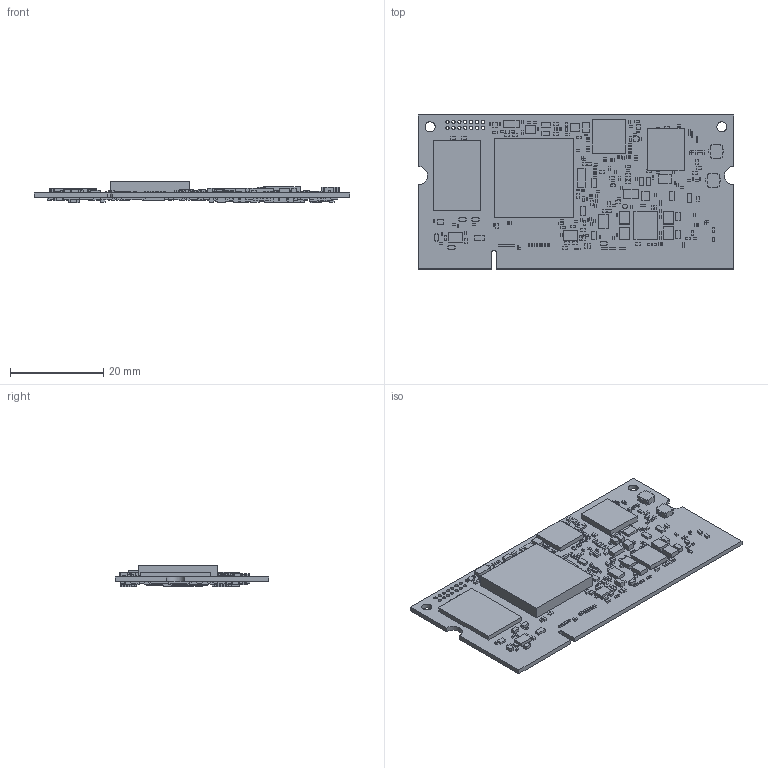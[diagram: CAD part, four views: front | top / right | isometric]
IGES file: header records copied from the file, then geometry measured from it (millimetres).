
Global section: file name: VAR-SOM-AM62P_Rev1.1; native system: unknown; preprocessor: unknown; author: unknown; organization: unknown; date: 20250915.121653; units: millimetre
Bounding box: 67.6 x 32.99 x 4.62 mm (x, y, z)
Volume: 3698.9 mm3; surface area: 8513.2 mm2
Topology: 661 solids, 661 shells, 4164 faces, 8526 edges, 5684 vertices
Faces by surface type: bspline 4164
